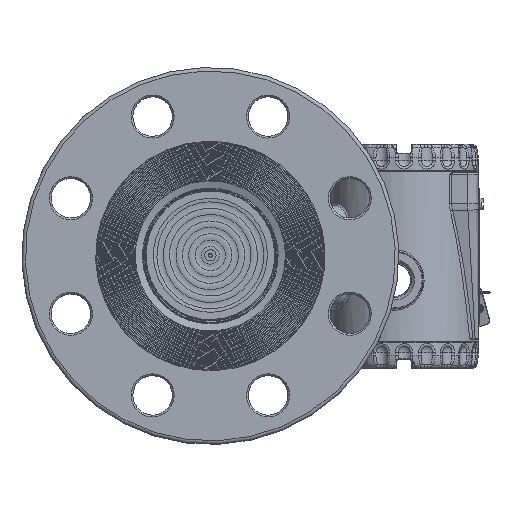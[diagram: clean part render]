
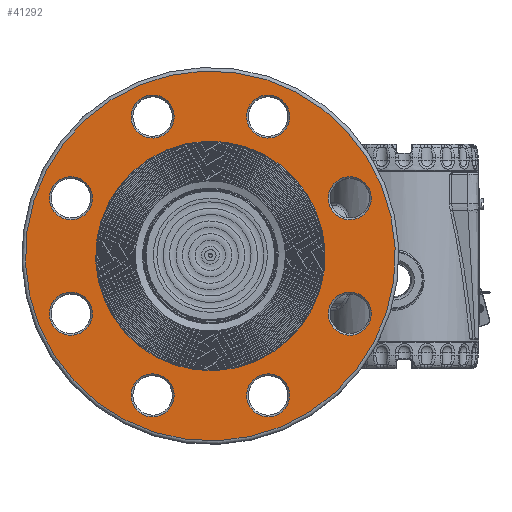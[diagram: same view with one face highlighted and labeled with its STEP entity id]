
A CAD part, top view. The second image highlights one B-rep face of the part: STEP entity #41292.
In plain terms, the highlighted planar face has unit normal (0, 0, 1).
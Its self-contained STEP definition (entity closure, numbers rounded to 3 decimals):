
#676=FACE_BOUND('',#6813,.T.);
#677=FACE_BOUND('',#6814,.T.);
#678=FACE_BOUND('',#6815,.T.);
#679=FACE_BOUND('',#6816,.T.);
#680=FACE_BOUND('',#6817,.T.);
#681=FACE_BOUND('',#6818,.T.);
#682=FACE_BOUND('',#6819,.T.);
#683=FACE_BOUND('',#6820,.T.);
#684=FACE_BOUND('',#6821,.T.);
#2678=PLANE('',#45848);
#4064=FACE_OUTER_BOUND('',#6812,.T.);
#6812=EDGE_LOOP('',(#31380));
#6813=EDGE_LOOP('',(#31381));
#6814=EDGE_LOOP('',(#31382));
#6815=EDGE_LOOP('',(#31383));
#6816=EDGE_LOOP('',(#31384));
#6817=EDGE_LOOP('',(#31385));
#6818=EDGE_LOOP('',(#31386));
#6819=EDGE_LOOP('',(#31387));
#6820=EDGE_LOOP('',(#31388));
#6821=EDGE_LOOP('',(#31389,#31390));
#13557=CIRCLE('',#45843,63.9);
#13561=CIRCLE('',#45847,63.9);
#13562=CIRCLE('',#45849,103.);
#13563=CIRCLE('',#45850,12.);
#13564=CIRCLE('',#45851,12.);
#13565=CIRCLE('',#45852,12.);
#13566=CIRCLE('',#45853,12.);
#13567=CIRCLE('',#45854,12.);
#13568=CIRCLE('',#45855,12.);
#13569=CIRCLE('',#45856,12.);
#13570=CIRCLE('',#45857,12.);
#18068=VERTEX_POINT('',#72891);
#18069=VERTEX_POINT('',#72892);
#18072=VERTEX_POINT('',#72901);
#18073=VERTEX_POINT('',#72903);
#18074=VERTEX_POINT('',#72905);
#18075=VERTEX_POINT('',#72907);
#18076=VERTEX_POINT('',#72909);
#18077=VERTEX_POINT('',#72911);
#18078=VERTEX_POINT('',#72913);
#18079=VERTEX_POINT('',#72915);
#18080=VERTEX_POINT('',#72917);
#22810=EDGE_CURVE('',#18068,#18069,#13557,.T.);
#22814=EDGE_CURVE('',#18069,#18068,#13561,.T.);
#22815=EDGE_CURVE('',#18072,#18072,#13562,.T.);
#22816=EDGE_CURVE('',#18073,#18073,#13563,.T.);
#22817=EDGE_CURVE('',#18074,#18074,#13564,.T.);
#22818=EDGE_CURVE('',#18075,#18075,#13565,.T.);
#22819=EDGE_CURVE('',#18076,#18076,#13566,.T.);
#22820=EDGE_CURVE('',#18077,#18077,#13567,.T.);
#22821=EDGE_CURVE('',#18078,#18078,#13568,.T.);
#22822=EDGE_CURVE('',#18079,#18079,#13569,.T.);
#22823=EDGE_CURVE('',#18080,#18080,#13570,.T.);
#31380=ORIENTED_EDGE('',*,*,#22815,.F.);
#31381=ORIENTED_EDGE('',*,*,#22816,.F.);
#31382=ORIENTED_EDGE('',*,*,#22817,.F.);
#31383=ORIENTED_EDGE('',*,*,#22818,.F.);
#31384=ORIENTED_EDGE('',*,*,#22819,.F.);
#31385=ORIENTED_EDGE('',*,*,#22820,.F.);
#31386=ORIENTED_EDGE('',*,*,#22821,.F.);
#31387=ORIENTED_EDGE('',*,*,#22822,.F.);
#31388=ORIENTED_EDGE('',*,*,#22823,.F.);
#31389=ORIENTED_EDGE('',*,*,#22810,.F.);
#31390=ORIENTED_EDGE('',*,*,#22814,.F.);
#41292=ADVANCED_FACE('',(#4064,#676,#677,#678,#679,#680,#681,#682,#683,
#684),#2678,.T.);
#45843=AXIS2_PLACEMENT_3D('',#72893,#53942,#53943);
#45847=AXIS2_PLACEMENT_3D('',#72899,#53950,#53951);
#45848=AXIS2_PLACEMENT_3D('',#72900,#53952,#53953);
#45849=AXIS2_PLACEMENT_3D('',#72902,#53954,#53955);
#45850=AXIS2_PLACEMENT_3D('',#72904,#53956,#53957);
#45851=AXIS2_PLACEMENT_3D('',#72906,#53958,#53959);
#45852=AXIS2_PLACEMENT_3D('',#72908,#53960,#53961);
#45853=AXIS2_PLACEMENT_3D('',#72910,#53962,#53963);
#45854=AXIS2_PLACEMENT_3D('',#72912,#53964,#53965);
#45855=AXIS2_PLACEMENT_3D('',#72914,#53966,#53967);
#45856=AXIS2_PLACEMENT_3D('',#72916,#53968,#53969);
#45857=AXIS2_PLACEMENT_3D('',#72918,#53970,#53971);
#53942=DIRECTION('center_axis',(0.,0.,1.));
#53943=DIRECTION('ref_axis',(-1.,0.,0.));
#53950=DIRECTION('center_axis',(0.,0.,1.));
#53951=DIRECTION('ref_axis',(-1.,0.,0.));
#53952=DIRECTION('center_axis',(0.,0.,1.));
#53953=DIRECTION('ref_axis',(1.,0.,0.));
#53954=DIRECTION('center_axis',(0.,0.,-1.));
#53955=DIRECTION('ref_axis',(-1.,0.,0.));
#53956=DIRECTION('center_axis',(0.,0.,1.));
#53957=DIRECTION('ref_axis',(0.,1.,0.));
#53958=DIRECTION('center_axis',(0.,0.,1.));
#53959=DIRECTION('ref_axis',(1.,0.,0.));
#53960=DIRECTION('center_axis',(0.,0.,1.));
#53961=DIRECTION('ref_axis',(-1.,0.,0.));
#53962=DIRECTION('center_axis',(0.,0.,1.));
#53963=DIRECTION('ref_axis',(0.707,-0.707,0.));
#53964=DIRECTION('center_axis',(0.,0.,1.));
#53965=DIRECTION('ref_axis',(0.,-1.,0.));
#53966=DIRECTION('center_axis',(0.,0.,1.));
#53967=DIRECTION('ref_axis',(-0.707,-0.707,0.));
#53968=DIRECTION('center_axis',(0.,0.,1.));
#53969=DIRECTION('ref_axis',(0.707,0.707,0.));
#53970=DIRECTION('center_axis',(0.,0.,1.));
#53971=DIRECTION('ref_axis',(-0.707,0.707,0.));
#72891=CARTESIAN_POINT('',(63.9,0.,31.8));
#72892=CARTESIAN_POINT('',(-63.9,0.,31.8));
#72893=CARTESIAN_POINT('Origin',(0.,0.,31.8));
#72899=CARTESIAN_POINT('Origin',(0.,0.,31.8));
#72900=CARTESIAN_POINT('Origin',(0.,0.,31.8));
#72901=CARTESIAN_POINT('',(103.,0.,31.8));
#72902=CARTESIAN_POINT('Origin',(0.,0.,31.8));
#72903=CARTESIAN_POINT('',(84.05,-12.,31.8));
#72904=CARTESIAN_POINT('Origin',(84.05,0.,31.8));
#72905=CARTESIAN_POINT('',(-12.,-84.05,31.8));
#72906=CARTESIAN_POINT('Origin',(0.,-84.05,31.8));
#72907=CARTESIAN_POINT('',(12.,84.05,31.8));
#72908=CARTESIAN_POINT('Origin',(0.,84.05,31.8));
#72909=CARTESIAN_POINT('',(-67.918,-50.947,31.8));
#72910=CARTESIAN_POINT('Origin',(-59.432,-59.432,31.8));
#72911=CARTESIAN_POINT('',(-84.05,12.,31.8));
#72912=CARTESIAN_POINT('Origin',(-84.05,0.,31.8));
#72913=CARTESIAN_POINT('',(-50.947,67.918,31.8));
#72914=CARTESIAN_POINT('Origin',(-59.432,59.432,31.8));
#72915=CARTESIAN_POINT('',(50.947,-67.918,31.8));
#72916=CARTESIAN_POINT('Origin',(59.432,-59.432,31.8));
#72917=CARTESIAN_POINT('',(67.918,50.947,31.8));
#72918=CARTESIAN_POINT('Origin',(59.432,59.432,31.8));
